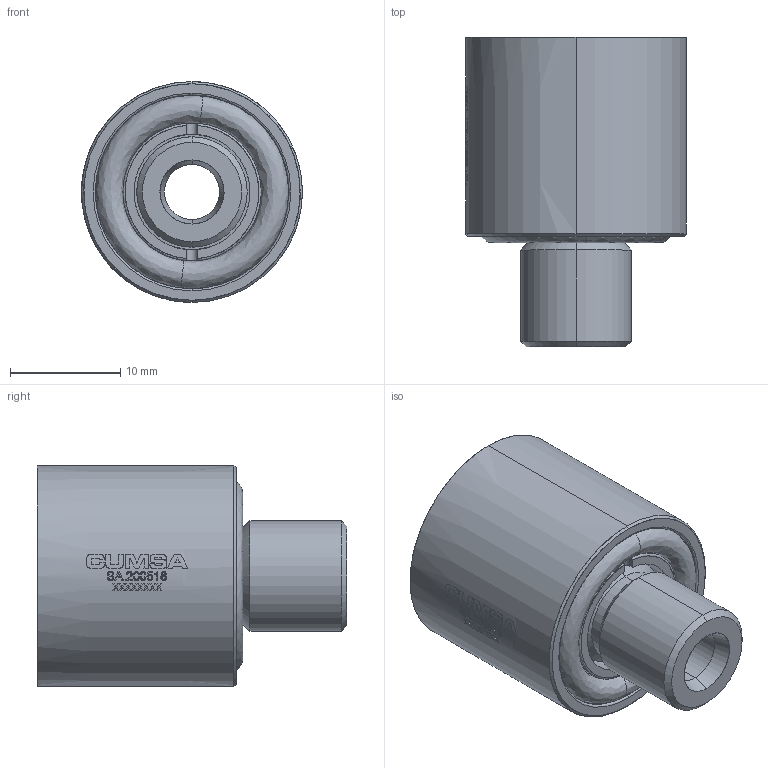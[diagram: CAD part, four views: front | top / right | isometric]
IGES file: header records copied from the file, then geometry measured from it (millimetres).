
Start section: START RECORD GO HERE.
Global section: file name: sa200518.igs; native system: DASSAULT SYSTEMES CATIA V5 R20 - www.3ds.com; preprocessor: CATIA Version 5 Release 20 ; author: Utente; organization: NB04-ASUS; date: 20201107.131922; units: millimetre
Bounding box: 20 x 28 x 20 mm (x, y, z)
Surface area: 4353.3 mm2 (no closed solid volume)
Topology: 0 solids, 0 shells, 519 faces, 2892 edges, 2892 vertices
Faces by surface type: bspline 303, revolution 110, plane 106
